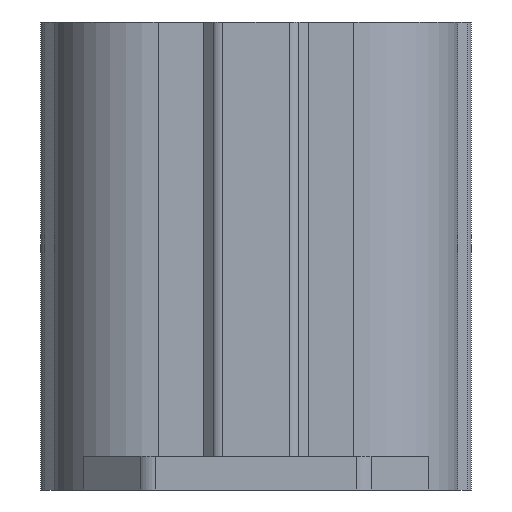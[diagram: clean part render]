
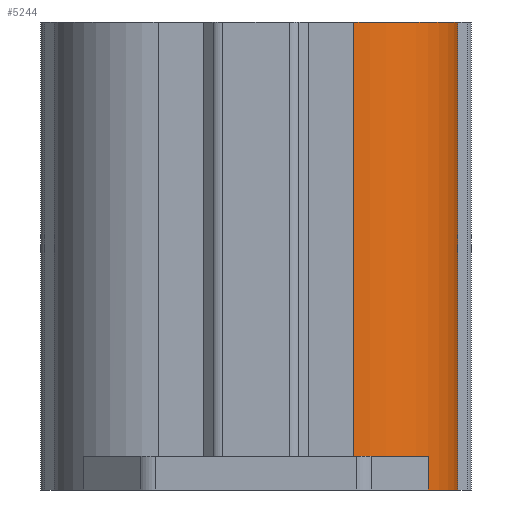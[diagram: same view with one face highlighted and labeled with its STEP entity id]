
A CAD part, front view. The second image highlights one B-rep face of the part: STEP entity #5244.
In plain terms, the highlighted cylindrical face has radius 6.2 mm (diameter 12.4 mm), a partial arc.
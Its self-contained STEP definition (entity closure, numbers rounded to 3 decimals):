
#388=CARTESIAN_POINT('',(5.772,-4.513,-27.6));
#389=DIRECTION('',(0.,0.,1.));
#390=DIRECTION('',(0.707,-0.707,0.));
#391=AXIS2_PLACEMENT_3D('',#388,#389,#390);
#1399=CARTESIAN_POINT('',(5.772,-4.513,0.));
#1400=DIRECTION('',(0.,0.,1.));
#1401=DIRECTION('',(0.,-1.,0.));
#1402=AXIS2_PLACEMENT_3D('',#1399,#1400,#1401);
#1404=DIRECTION('',(0.,0.,1.));
#1405=VECTOR('',#1404,27.6);
#1406=CARTESIAN_POINT('',(11.9,-5.454,-27.6));
#1407=LINE('',#1406,#1405);
#1824=CARTESIAN_POINT('',(5.772,-4.513,-25.6));
#1825=DIRECTION('',(0.,0.,-1.));
#1826=DIRECTION('',(0.707,-0.707,0.));
#1827=AXIS2_PLACEMENT_3D('',#1824,#1825,#1826);
#1854=DIRECTION('',(0.,0.,1.));
#1855=VECTOR('',#1854,2.);
#1856=CARTESIAN_POINT('',(10.156,-8.897,-27.6));
#1857=LINE('',#1856,#1855);
#1914=DIRECTION('',(0.,0.,-1.));
#1915=VECTOR('',#1914,25.6);
#1916=CARTESIAN_POINT('',(5.772,-10.713,0.));
#1917=LINE('',#1916,#1915);
#3294=CARTESIAN_POINT('',(5.772,-10.713,0.));
#3295=CARTESIAN_POINT('',(5.772,-10.713,-25.6));
#3296=VERTEX_POINT('',#3294);
#3297=VERTEX_POINT('',#3295);
#4266=CARTESIAN_POINT('',(10.156,-8.897,-27.6));
#4267=CARTESIAN_POINT('',(11.9,-5.454,-27.6));
#4268=VERTEX_POINT('',#4266);
#4269=VERTEX_POINT('',#4267);
#4274=CARTESIAN_POINT('',(11.9,-5.454,0.));
#4275=VERTEX_POINT('',#4274);
#4276=CARTESIAN_POINT('',(10.156,-8.897,-25.6));
#4277=VERTEX_POINT('',#4276);
#5227=CARTESIAN_POINT('',(5.772,-4.513,0.));
#5228=DIRECTION('',(0.,0.,1.));
#5229=DIRECTION('',(1.,0.,0.));
#5230=AXIS2_PLACEMENT_3D('',#5227,#5228,#5229);
#5231=CYLINDRICAL_SURFACE('',#5230,6.2);
#5232=ORIENTED_EDGE('',*,*,#5137,.T.);
#5234=ORIENTED_EDGE('',*,*,#5233,.F.);
#5235=ORIENTED_EDGE('',*,*,#4287,.F.);
#5237=ORIENTED_EDGE('',*,*,#5236,.T.);
#5239=ORIENTED_EDGE('',*,*,#5238,.T.);
#5241=ORIENTED_EDGE('',*,*,#5240,.F.);
#5242=EDGE_LOOP('',(#5232,#5234,#5235,#5237,#5239,#5241));
#5243=FACE_OUTER_BOUND('',#5242,.F.);
#5244=ADVANCED_FACE('',(#5243),#5231,.T.);
#392=CIRCLE('',#391,6.2);
#1403=CIRCLE('',#1402,6.2);
#1828=CIRCLE('',#1827,6.2);
#4287=EDGE_CURVE('',#4268,#4269,#392,.T.);
#5137=EDGE_CURVE('',#3296,#4275,#1403,.T.);
#5233=EDGE_CURVE('',#4269,#4275,#1407,.T.);
#5236=EDGE_CURVE('',#4268,#4277,#1857,.T.);
#5238=EDGE_CURVE('',#4277,#3297,#1828,.T.);
#5240=EDGE_CURVE('',#3296,#3297,#1917,.T.);
